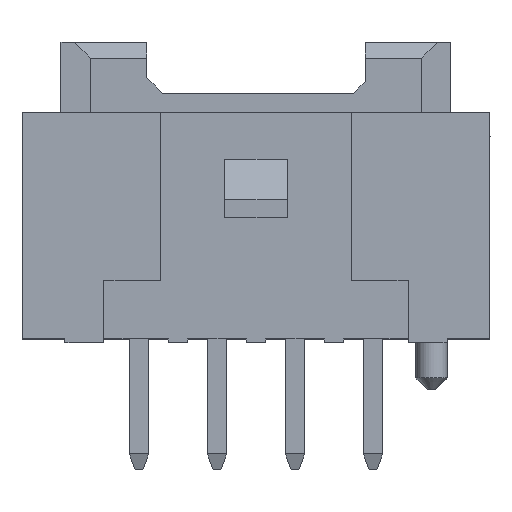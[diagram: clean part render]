
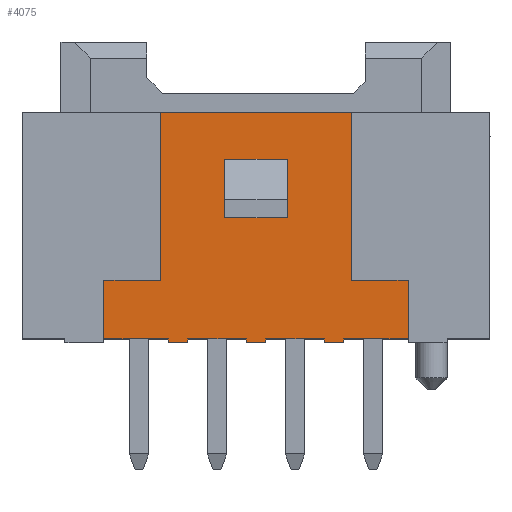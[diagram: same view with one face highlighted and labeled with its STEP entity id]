
A CAD part, top view. The second image highlights one B-rep face of the part: STEP entity #4075.
In plain terms, the highlighted planar face has unit normal (0, 0, 1).
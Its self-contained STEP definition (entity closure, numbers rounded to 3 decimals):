
#592=DIRECTION('',(0.,-1.,0.));
#593=VECTOR('',#592,1.5);
#594=CARTESIAN_POINT('',(-9.9,1.6,1.6));
#595=LINE('',#594,#593);
#648=DIRECTION('',(0.,-1.,0.));
#649=VECTOR('',#648,4.3);
#650=CARTESIAN_POINT('',(-8.45,5.9,1.6));
#651=LINE('',#650,#649);
#656=DIRECTION('',(1.,0.,0.));
#657=VECTOR('',#656,1.45);
#658=CARTESIAN_POINT('',(-9.9,1.6,1.6));
#659=LINE('',#658,#657);
#660=DIRECTION('',(1.,0.,0.));
#661=VECTOR('',#660,4.9);
#662=CARTESIAN_POINT('',(-8.45,5.9,1.6));
#663=LINE('',#662,#661);
#664=DIRECTION('',(0.,-1.,0.));
#665=VECTOR('',#664,4.3);
#666=CARTESIAN_POINT('',(-3.55,5.9,1.6));
#667=LINE('',#666,#665);
#668=DIRECTION('',(1.,0.,0.));
#669=VECTOR('',#668,1.45);
#670=CARTESIAN_POINT('',(-3.55,1.6,1.6));
#671=LINE('',#670,#669);
#672=DIRECTION('',(0.,-1.,0.));
#673=VECTOR('',#672,1.5);
#674=CARTESIAN_POINT('',(-2.1,1.6,1.6));
#675=LINE('',#674,#673);
#676=DIRECTION('',(-1.,0.,0.));
#677=VECTOR('',#676,1.65);
#678=CARTESIAN_POINT('',(-2.1,0.1,1.6));
#679=LINE('',#678,#677);
#680=DIRECTION('',(-1.,0.,0.));
#681=VECTOR('',#680,0.5);
#682=CARTESIAN_POINT('',(-3.75,0.,1.6));
#683=LINE('',#682,#681);
#684=DIRECTION('',(0.,1.,0.));
#685=VECTOR('',#684,0.1);
#686=CARTESIAN_POINT('',(-4.25,0.,1.6));
#687=LINE('',#686,#685);
#688=DIRECTION('',(-1.,0.,0.));
#689=VECTOR('',#688,1.5);
#690=CARTESIAN_POINT('',(-4.25,0.1,1.6));
#691=LINE('',#690,#689);
#692=DIRECTION('',(-1.,0.,0.));
#693=VECTOR('',#692,0.5);
#694=CARTESIAN_POINT('',(-5.75,0.,1.6));
#695=LINE('',#694,#693);
#696=DIRECTION('',(0.,1.,0.));
#697=VECTOR('',#696,0.1);
#698=CARTESIAN_POINT('',(-6.25,0.,1.6));
#699=LINE('',#698,#697);
#700=DIRECTION('',(-1.,0.,0.));
#701=VECTOR('',#700,1.5);
#702=CARTESIAN_POINT('',(-6.25,0.1,1.6));
#703=LINE('',#702,#701);
#704=DIRECTION('',(-1.,0.,0.));
#705=VECTOR('',#704,0.5);
#706=CARTESIAN_POINT('',(-7.75,0.,1.6));
#707=LINE('',#706,#705);
#708=DIRECTION('',(0.,1.,0.));
#709=VECTOR('',#708,0.1);
#710=CARTESIAN_POINT('',(-8.25,0.,1.6));
#711=LINE('',#710,#709);
#712=DIRECTION('',(-1.,0.,0.));
#713=VECTOR('',#712,1.65);
#714=CARTESIAN_POINT('',(-8.25,0.1,1.6));
#715=LINE('',#714,#713);
#716=DIRECTION('',(0.,-1.,0.));
#717=VECTOR('',#716,1.5);
#718=CARTESIAN_POINT('',(-6.8,4.7,1.6));
#719=LINE('',#718,#717);
#1090=DIRECTION('',(0.,1.,0.));
#1091=VECTOR('',#1090,0.1);
#1092=CARTESIAN_POINT('',(-3.75,0.,1.6));
#1093=LINE('',#1092,#1091);
#1150=DIRECTION('',(0.,1.,0.));
#1151=VECTOR('',#1150,0.1);
#1152=CARTESIAN_POINT('',(-5.75,0.,1.6));
#1153=LINE('',#1152,#1151);
#1210=DIRECTION('',(0.,1.,0.));
#1211=VECTOR('',#1210,0.1);
#1212=CARTESIAN_POINT('',(-7.75,0.,1.6));
#1213=LINE('',#1212,#1211);
#2206=DIRECTION('',(0.,-1.,0.));
#2207=VECTOR('',#2206,1.5);
#2208=CARTESIAN_POINT('',(-5.2,4.7,1.6));
#2209=LINE('',#2208,#2207);
#2214=DIRECTION('',(-1.,0.,0.));
#2215=VECTOR('',#2214,1.6);
#2216=CARTESIAN_POINT('',(-5.2,3.2,1.6));
#2217=LINE('',#2216,#2215);
#2230=DIRECTION('',(1.,0.,0.));
#2231=VECTOR('',#2230,1.6);
#2232=CARTESIAN_POINT('',(-6.8,4.7,1.6));
#2233=LINE('',#2232,#2231);
#2680=CARTESIAN_POINT('',(-3.55,5.9,1.6));
#2681=VERTEX_POINT('',#2680);
#2682=CARTESIAN_POINT('',(-8.45,5.9,1.6));
#2683=VERTEX_POINT('',#2682);
#2708=CARTESIAN_POINT('',(-9.9,0.1,1.6));
#2710=VERTEX_POINT('',#2708);
#2712=CARTESIAN_POINT('',(-8.25,0.1,1.6));
#2713=VERTEX_POINT('',#2712);
#2736=CARTESIAN_POINT('',(-9.9,1.6,1.6));
#2737=VERTEX_POINT('',#2736);
#2744=CARTESIAN_POINT('',(-8.45,1.6,1.6));
#2745=VERTEX_POINT('',#2744);
#2746=CARTESIAN_POINT('',(-3.55,1.6,1.6));
#2747=VERTEX_POINT('',#2746);
#2748=CARTESIAN_POINT('',(-2.1,1.6,1.6));
#2749=VERTEX_POINT('',#2748);
#2750=CARTESIAN_POINT('',(-2.1,0.1,1.6));
#2751=VERTEX_POINT('',#2750);
#2752=CARTESIAN_POINT('',(-3.75,0.1,1.6));
#2753=VERTEX_POINT('',#2752);
#2754=CARTESIAN_POINT('',(-3.75,0.,1.6));
#2755=VERTEX_POINT('',#2754);
#2756=CARTESIAN_POINT('',(-4.25,0.,1.6));
#2757=VERTEX_POINT('',#2756);
#2758=CARTESIAN_POINT('',(-4.25,0.1,1.6));
#2759=VERTEX_POINT('',#2758);
#2760=CARTESIAN_POINT('',(-5.75,0.1,1.6));
#2761=VERTEX_POINT('',#2760);
#2762=CARTESIAN_POINT('',(-5.75,0.,1.6));
#2763=VERTEX_POINT('',#2762);
#2764=CARTESIAN_POINT('',(-6.25,0.,1.6));
#2765=VERTEX_POINT('',#2764);
#2766=CARTESIAN_POINT('',(-6.25,0.1,1.6));
#2767=VERTEX_POINT('',#2766);
#2768=CARTESIAN_POINT('',(-7.75,0.1,1.6));
#2769=VERTEX_POINT('',#2768);
#2770=CARTESIAN_POINT('',(-7.75,0.,1.6));
#2771=VERTEX_POINT('',#2770);
#2772=CARTESIAN_POINT('',(-8.25,0.,1.6));
#2773=VERTEX_POINT('',#2772);
#2774=CARTESIAN_POINT('',(-5.2,4.7,1.6));
#2775=CARTESIAN_POINT('',(-5.2,3.2,1.6));
#2776=VERTEX_POINT('',#2774);
#2777=VERTEX_POINT('',#2775);
#2778=CARTESIAN_POINT('',(-6.8,4.7,1.6));
#2779=VERTEX_POINT('',#2778);
#2780=CARTESIAN_POINT('',(-6.8,3.2,1.6));
#2781=VERTEX_POINT('',#2780);
#4022=CARTESIAN_POINT('',(-6.,2.95,1.6));
#4023=DIRECTION('',(0.,0.,1.));
#4024=DIRECTION('',(1.,0.,0.));
#4025=AXIS2_PLACEMENT_3D('',#4022,#4023,#4024);
#4026=PLANE('',#4025);
#4028=ORIENTED_EDGE('',*,*,#4027,.T.);
#4029=ORIENTED_EDGE('',*,*,#4014,.F.);
#4030=ORIENTED_EDGE('',*,*,#3793,.T.);
#4032=ORIENTED_EDGE('',*,*,#4031,.T.);
#4034=ORIENTED_EDGE('',*,*,#4033,.T.);
#4036=ORIENTED_EDGE('',*,*,#4035,.T.);
#4038=ORIENTED_EDGE('',*,*,#4037,.T.);
#4040=ORIENTED_EDGE('',*,*,#4039,.F.);
#4042=ORIENTED_EDGE('',*,*,#4041,.T.);
#4044=ORIENTED_EDGE('',*,*,#4043,.T.);
#4046=ORIENTED_EDGE('',*,*,#4045,.T.);
#4048=ORIENTED_EDGE('',*,*,#4047,.F.);
#4050=ORIENTED_EDGE('',*,*,#4049,.T.);
#4052=ORIENTED_EDGE('',*,*,#4051,.T.);
#4054=ORIENTED_EDGE('',*,*,#4053,.T.);
#4056=ORIENTED_EDGE('',*,*,#4055,.F.);
#4058=ORIENTED_EDGE('',*,*,#4057,.T.);
#4060=ORIENTED_EDGE('',*,*,#4059,.T.);
#4061=ORIENTED_EDGE('',*,*,#3893,.T.);
#4062=ORIENTED_EDGE('',*,*,#3954,.F.);
#4063=EDGE_LOOP('',(#4028,#4029,#4030,#4032,#4034,#4036,#4038,#4040,#4042,#4044,
#4046,#4048,#4050,#4052,#4054,#4056,#4058,#4060,#4061,#4062));
#4064=FACE_OUTER_BOUND('',#4063,.F.);
#4066=ORIENTED_EDGE('',*,*,#4065,.F.);
#4068=ORIENTED_EDGE('',*,*,#4067,.F.);
#4070=ORIENTED_EDGE('',*,*,#4069,.T.);
#4072=ORIENTED_EDGE('',*,*,#4071,.F.);
#4073=EDGE_LOOP('',(#4066,#4068,#4070,#4072));
#4074=FACE_BOUND('',#4073,.F.);
#3793=EDGE_CURVE('',#2683,#2681,#663,.T.);
#3893=EDGE_CURVE('',#2713,#2710,#715,.T.);
#3954=EDGE_CURVE('',#2737,#2710,#595,.T.);
#4014=EDGE_CURVE('',#2683,#2745,#651,.T.);
#4027=EDGE_CURVE('',#2737,#2745,#659,.T.);
#4031=EDGE_CURVE('',#2681,#2747,#667,.T.);
#4033=EDGE_CURVE('',#2747,#2749,#671,.T.);
#4035=EDGE_CURVE('',#2749,#2751,#675,.T.);
#4037=EDGE_CURVE('',#2751,#2753,#679,.T.);
#4039=EDGE_CURVE('',#2755,#2753,#1093,.T.);
#4041=EDGE_CURVE('',#2755,#2757,#683,.T.);
#4043=EDGE_CURVE('',#2757,#2759,#687,.T.);
#4045=EDGE_CURVE('',#2759,#2761,#691,.T.);
#4047=EDGE_CURVE('',#2763,#2761,#1153,.T.);
#4049=EDGE_CURVE('',#2763,#2765,#695,.T.);
#4051=EDGE_CURVE('',#2765,#2767,#699,.T.);
#4053=EDGE_CURVE('',#2767,#2769,#703,.T.);
#4055=EDGE_CURVE('',#2771,#2769,#1213,.T.);
#4057=EDGE_CURVE('',#2771,#2773,#707,.T.);
#4059=EDGE_CURVE('',#2773,#2713,#711,.T.);
#4065=EDGE_CURVE('',#2776,#2777,#2209,.T.);
#4067=EDGE_CURVE('',#2779,#2776,#2233,.T.);
#4069=EDGE_CURVE('',#2779,#2781,#719,.T.);
#4071=EDGE_CURVE('',#2777,#2781,#2217,.T.);
#4075=ADVANCED_FACE('',(#4064,#4074),#4026,.T.);
